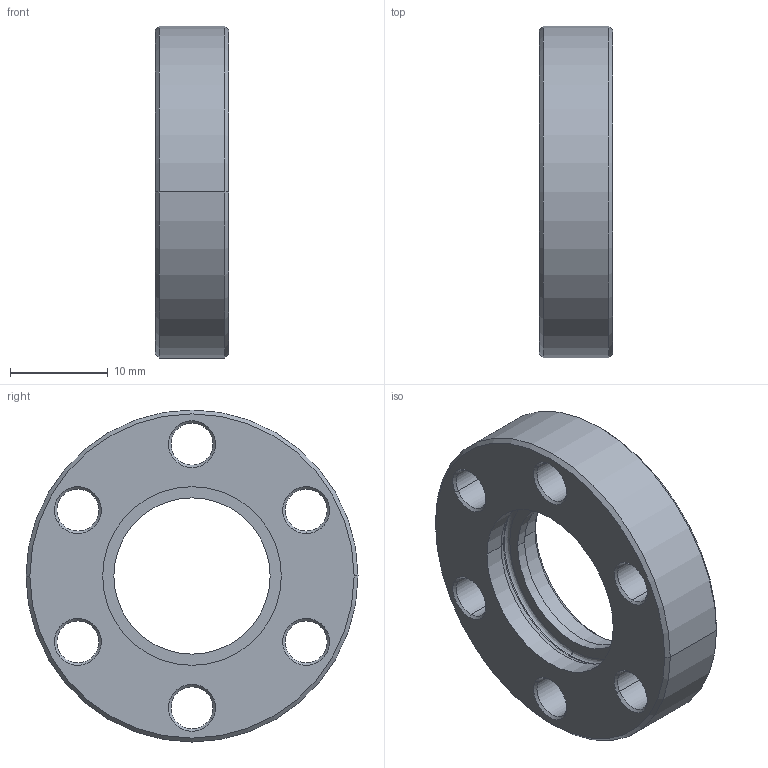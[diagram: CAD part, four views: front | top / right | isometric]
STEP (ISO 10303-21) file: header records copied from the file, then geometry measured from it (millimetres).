
FILE_DESCRIPTION((''),'2;1');
FILE_NAME('N:\Transfer\Berger Martin\Leybold\C15\83541.stp','2005-02-07T08:57:03',('VCRC_L'),(''),'Autodesk Inventor 9','Autodesk Inventor 9','');
FILE_SCHEMA(('AUTOMOTIVE_DESIGN { 1 0 10303 214 1 1 1 1 }'));
Length unit declared in the file: millimetre
Products named in the file (1): 83541
Bounding box: 7.5 x 34 x 34 mm (x, y, z)
Volume: 4190 mm3; surface area: 3017 mm2
Topology: 1 solids, 1 shells, 70 faces, 163 edges, 97 vertices
Faces by surface type: cone 38, bspline 18, cylinder 8, plane 4, torus 2
Entity records: 2459 total; most frequent: CARTESIAN_POINT 799, DIRECTION 374, ORIENTED_EDGE 326, EDGE_CURVE 163, AXIS2_PLACEMENT_3D 158, CIRCLE 105, VERTEX_POINT 97, EDGE_LOOP 86
